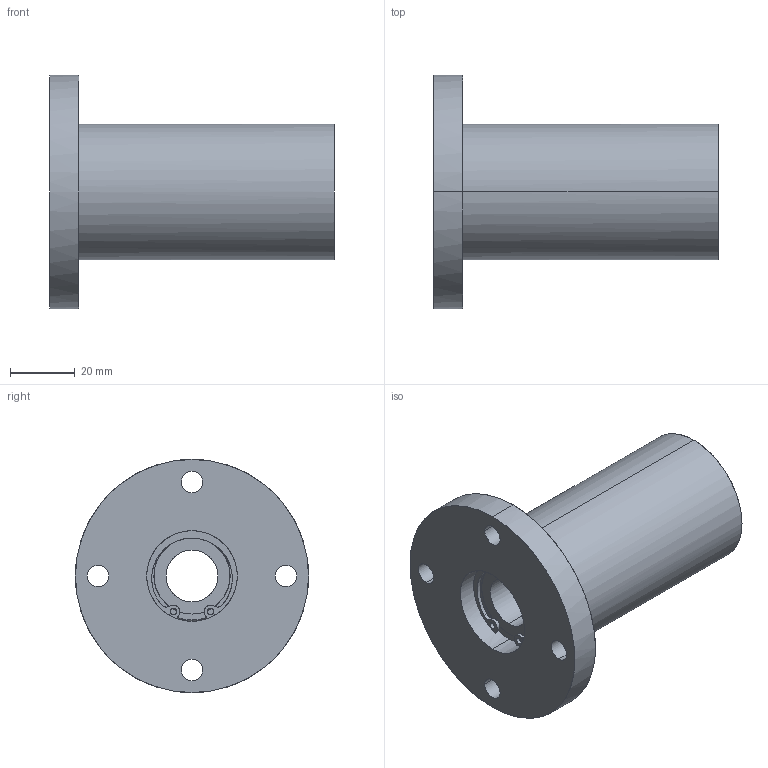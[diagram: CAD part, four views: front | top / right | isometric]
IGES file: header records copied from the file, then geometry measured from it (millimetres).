
Global section: file name: No Iges File Name specified; native system: AutoDesk Inventor R10; preprocessor: AutoDesk Inventor Iges Exporter R10; author: No Author specified; organization: No Organization specified; date: 20101214.134643; units: millimetre
Bounding box: 88 x 72 x 72 mm (x, y, z)
Surface area: 28453 mm2 (no closed solid volume)
Topology: 0 solids, 0 shells, 111 faces, 816 edges, 816 vertices
Faces by surface type: bspline 111
